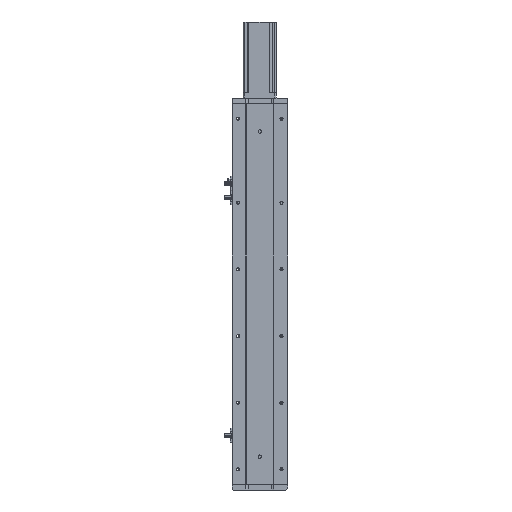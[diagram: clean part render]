
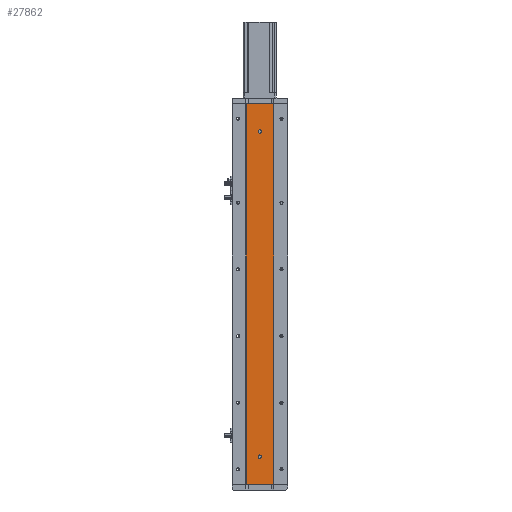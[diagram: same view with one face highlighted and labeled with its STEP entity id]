
A CAD part, left-side view. The second image highlights one B-rep face of the part: STEP entity #27862.
In plain terms, the highlighted planar face has unit normal (-1, 0, 0).
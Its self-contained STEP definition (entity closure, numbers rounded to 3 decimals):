
#146 = AXIS2_PLACEMENT_3D ( 'NONE', #2697, #23137, #5663 ) ;
#784 = VERTEX_POINT ( 'NONE', #19793 ) ;
#854 = AXIS2_PLACEMENT_3D ( 'NONE', #32475, #15097, #35406 ) ;
#1543 = DIRECTION ( 'NONE',  ( -1., 0., 0. ) ) ;
#1698 = DIRECTION ( 'NONE',  ( -1., 0., 0. ) ) ;
#2320 = CARTESIAN_POINT ( 'NONE',  ( -18.926, 24.785, 685. ) ) ;
#2697 = CARTESIAN_POINT ( 'NONE',  ( -18.926, 0., 635. ) ) ;
#3240 = CARTESIAN_POINT ( 'NONE',  ( -18.926, 0., 638. ) ) ;
#3241 = EDGE_LOOP ( 'NONE', ( #14793, #12174 ) ) ;
#3330 = EDGE_CURVE ( 'NONE', #4697, #6306, #21428, .T. ) ;
#3549 = VERTEX_POINT ( 'NONE', #18004 ) ;
#4697 = VERTEX_POINT ( 'NONE', #10497 ) ;
#4703 = LINE ( 'NONE', #15672, #20199 ) ;
#4896 = LINE ( 'NONE', #11532, #19472 ) ;
#5280 = DIRECTION ( 'NONE',  ( 0., -1., 0. ) ) ;
#5295 = LINE ( 'NONE', #2320, #19873 ) ;
#5663 = DIRECTION ( 'NONE',  ( 0., 0., 1. ) ) ;
#6306 = VERTEX_POINT ( 'NONE', #3240 ) ;
#7415 = EDGE_CURVE ( 'NONE', #3549, #32121, #5295, .T. ) ;
#7660 = VERTEX_POINT ( 'NONE', #24937 ) ;
#8292 = ORIENTED_EDGE ( 'NONE', *, *, #29630, .F. ) ;
#8593 = EDGE_CURVE ( 'NONE', #24324, #784, #4703, .T. ) ;
#9650 = EDGE_CURVE ( 'NONE', #28952, #7660, #22362, .T. ) ;
#9904 = AXIS2_PLACEMENT_3D ( 'NONE', #13272, #33584, #16211 ) ;
#10497 = CARTESIAN_POINT ( 'NONE',  ( -18.926, 0., 632. ) ) ;
#10952 = CARTESIAN_POINT ( 'NONE',  ( -18.926, 0., 53. ) ) ;
#10991 = CIRCLE ( 'NONE', #29648, 3. ) ;
#11104 = DIRECTION ( 'NONE',  ( 0., 0., -1. ) ) ;
#11202 = FACE_OUTER_BOUND ( 'NONE', #16979, .T. ) ;
#11532 = CARTESIAN_POINT ( 'NONE',  ( -18.926, 24.785, 685. ) ) ;
#12174 = ORIENTED_EDGE ( 'NONE', *, *, #3330, .F. ) ;
#12715 = DIRECTION ( 'NONE',  ( 0., -1., 0. ) ) ;
#13272 = CARTESIAN_POINT ( 'NONE',  ( -18.926, 24.785, 685. ) ) ;
#13855 = EDGE_LOOP ( 'NONE', ( #29334, #21719 ) ) ;
#14078 = EDGE_CURVE ( 'NONE', #6306, #4697, #10991, .T. ) ;
#14793 = ORIENTED_EDGE ( 'NONE', *, *, #14078, .F. ) ;
#15097 = DIRECTION ( 'NONE',  ( -1., 0., 0. ) ) ;
#15672 = CARTESIAN_POINT ( 'NONE',  ( -18.926, 24.785, 0. ) ) ;
#16082 = PLANE ( 'NONE',  #9904 ) ;
#16211 = DIRECTION ( 'NONE',  ( 0., 0., -1. ) ) ;
#16979 = EDGE_LOOP ( 'NONE', ( #35881, #8292, #24899, #35706 ) ) ;
#18004 = CARTESIAN_POINT ( 'NONE',  ( -18.926, 24.785, 685. ) ) ;
#18932 = FACE_BOUND ( 'NONE', #3241, .T. ) ;
#19036 = CARTESIAN_POINT ( 'NONE',  ( -18.926, 0., 635. ) ) ;
#19173 = CARTESIAN_POINT ( 'NONE',  ( -18.926, 0., 50. ) ) ;
#19472 = VECTOR ( 'NONE', #32112, 1000. ) ;
#19793 = CARTESIAN_POINT ( 'NONE',  ( -18.926, -24.785, 0. ) ) ;
#19873 = VECTOR ( 'NONE', #5280, 1000. ) ;
#19895 = CARTESIAN_POINT ( 'NONE',  ( -18.926, -24.785, 685. ) ) ;
#20199 = VECTOR ( 'NONE', #12715, 1000. ) ;
#21428 = CIRCLE ( 'NONE', #146, 3. ) ;
#21719 = ORIENTED_EDGE ( 'NONE', *, *, #34985, .F. ) ;
#21985 = DIRECTION ( 'NONE',  ( 0., 0., 1. ) ) ;
#22129 = DIRECTION ( 'NONE',  ( 0., 0., 1. ) ) ;
#22362 = CIRCLE ( 'NONE', #854, 3. ) ;
#22806 = AXIS2_PLACEMENT_3D ( 'NONE', #19173, #1698, #22129 ) ;
#23137 = DIRECTION ( 'NONE',  ( -1., 0., 0. ) ) ;
#24324 = VERTEX_POINT ( 'NONE', #37395 ) ;
#24899 = ORIENTED_EDGE ( 'NONE', *, *, #7415, .F. ) ;
#24937 = CARTESIAN_POINT ( 'NONE',  ( -18.926, 0., 47. ) ) ;
#25316 = CARTESIAN_POINT ( 'NONE',  ( -18.926, -24.785, 685. ) ) ;
#26666 = FACE_BOUND ( 'NONE', #13855, .T. ) ;
#27527 = LINE ( 'NONE', #19895, #36170 ) ;
#27862 = ADVANCED_FACE ( 'NONE', ( #26666, #18932, #11202 ), #16082, .F. ) ;
#28952 = VERTEX_POINT ( 'NONE', #10952 ) ;
#29067 = CIRCLE ( 'NONE', #22806, 3. ) ;
#29334 = ORIENTED_EDGE ( 'NONE', *, *, #9650, .F. ) ;
#29630 = EDGE_CURVE ( 'NONE', #32121, #784, #27527, .T. ) ;
#29648 = AXIS2_PLACEMENT_3D ( 'NONE', #19036, #1543, #21985 ) ;
#32112 = DIRECTION ( 'NONE',  ( 0., 0., -1. ) ) ;
#32121 = VERTEX_POINT ( 'NONE', #25316 ) ;
#32475 = CARTESIAN_POINT ( 'NONE',  ( -18.926, 0., 50. ) ) ;
#33584 = DIRECTION ( 'NONE',  ( 1., 0., 0. ) ) ;
#34985 = EDGE_CURVE ( 'NONE', #7660, #28952, #29067, .T. ) ;
#35283 = EDGE_CURVE ( 'NONE', #3549, #24324, #4896, .T. ) ;
#35406 = DIRECTION ( 'NONE',  ( 0., 0., 1. ) ) ;
#35706 = ORIENTED_EDGE ( 'NONE', *, *, #35283, .T. ) ;
#35881 = ORIENTED_EDGE ( 'NONE', *, *, #8593, .T. ) ;
#36170 = VECTOR ( 'NONE', #11104, 1000. ) ;
#37395 = CARTESIAN_POINT ( 'NONE',  ( -18.926, 24.785, 0. ) ) ;
